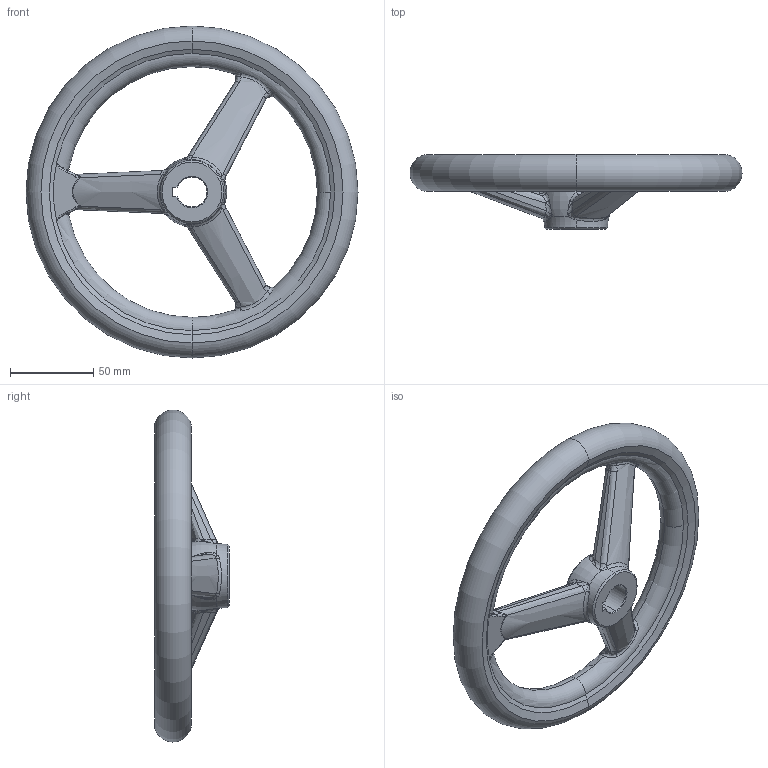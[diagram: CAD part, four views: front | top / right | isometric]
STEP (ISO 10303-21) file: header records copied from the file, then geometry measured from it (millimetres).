
FILE_DESCRIPTION (( 'STEP AP203' ), '1' );
FILE_NAME ('din950_a3_200x18.step', '2010-03-23T09:49:42', ( '_' ), ( '_' ), 'SwSTEP 2.0', 'SolidWorks 2010', '' );
FILE_SCHEMA (( 'CONFIG_CONTROL_DESIGN' ));
Length unit declared in the file: millimetre
Products named in the file (1): din950_a3_200x18
Bounding box: 200 x 45 x 200 mm (x, y, z)
Volume: 292538 mm3; surface area: 55905.1 mm2
Topology: 1 solids, 1 shells, 225 faces, 554 edges, 297 vertices
Faces by surface type: bspline 164, torus 22, cone 18, plane 13, cylinder 8
Entity records: 26711 total; most frequent: CARTESIAN_POINT 22512, ORIENTED_EDGE 1052, DIRECTION 534, EDGE_CURVE 526, B_SPLINE_CURVE_WITH_KNOTS 301, VERTEX_POINT 297, AXIS2_PLACEMENT_3D 251, EDGE_LOOP 227
